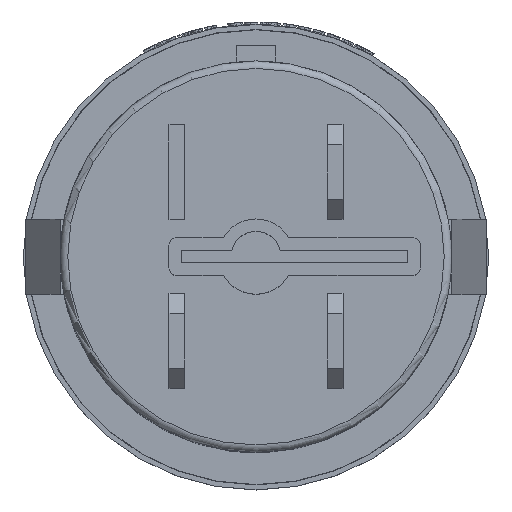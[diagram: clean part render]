
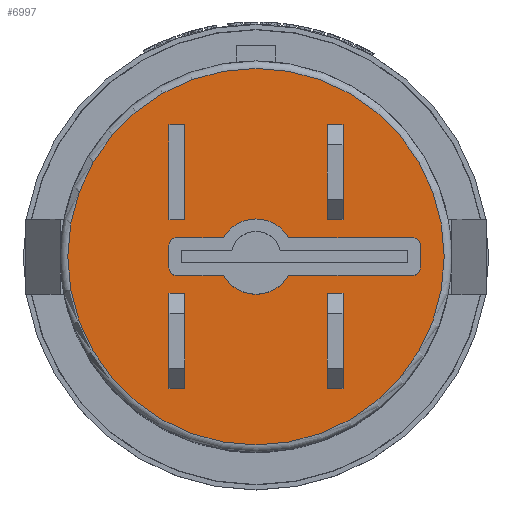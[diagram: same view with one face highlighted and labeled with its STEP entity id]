
A CAD part, top view. The second image highlights one B-rep face of the part: STEP entity #6997.
In plain terms, the highlighted planar face has unit normal (0, 0, 1).
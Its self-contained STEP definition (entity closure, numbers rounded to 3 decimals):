
#74=FACE_BOUND('',#1193,.T.);
#75=FACE_BOUND('',#1194,.T.);
#76=FACE_BOUND('',#1195,.T.);
#77=FACE_BOUND('',#1196,.T.);
#78=FACE_BOUND('',#1197,.T.);
#251=PLANE('',#7454);
#776=FACE_OUTER_BOUND('',#1192,.T.);
#1192=EDGE_LOOP('',(#6469));
#1193=EDGE_LOOP('',(#6470,#6471,#6472,#6473,#6474,#6475,#6476,#6477,#6478,
#6479,#6480,#6481));
#1194=EDGE_LOOP('',(#6482,#6483,#6484,#6485));
#1195=EDGE_LOOP('',(#6486,#6487,#6488,#6489));
#1196=EDGE_LOOP('',(#6490,#6491,#6492,#6493));
#1197=EDGE_LOOP('',(#6494,#6495,#6496,#6497));
#1378=CIRCLE('',#7408,0.381);
#1385=CIRCLE('',#7418,0.381);
#1386=CIRCLE('',#7421,0.381);
#1387=CIRCLE('',#7424,0.381);
#1395=CIRCLE('',#7446,1.905);
#1396=CIRCLE('',#7449,1.905);
#1397=CIRCLE('',#7452,9.519);
#1781=LINE('',#15997,#2348);
#1785=LINE('',#16003,#2352);
#1788=LINE('',#16009,#2355);
#1789=LINE('',#16011,#2356);
#1810=LINE('',#16072,#2377);
#1814=LINE('',#16080,#2381);
#1817=LINE('',#16086,#2384);
#1821=LINE('',#16093,#2388);
#1893=LINE('',#16292,#2460);
#1906=LINE('',#16332,#2473);
#1910=LINE('',#16342,#2477);
#1913=LINE('',#16351,#2480);
#1930=LINE('',#16402,#2497);
#1932=LINE('',#16408,#2499);
#1933=LINE('',#16416,#2500);
#1934=LINE('',#16418,#2501);
#1935=LINE('',#16420,#2502);
#1936=LINE('',#16421,#2503);
#1937=LINE('',#16424,#2504);
#1938=LINE('',#16426,#2505);
#1939=LINE('',#16428,#2506);
#1940=LINE('',#16429,#2507);
#2348=VECTOR('',#8424,10.);
#2352=VECTOR('',#8430,10.);
#2355=VECTOR('',#8437,10.);
#2356=VECTOR('',#8440,10.);
#2377=VECTOR('',#8493,10.);
#2381=VECTOR('',#8499,10.);
#2384=VECTOR('',#8504,10.);
#2388=VECTOR('',#8512,10.);
#2460=VECTOR('',#8708,10.);
#2473=VECTOR('',#8741,10.);
#2477=VECTOR('',#8751,10.);
#2480=VECTOR('',#8760,10.);
#2497=VECTOR('',#8821,10.);
#2499=VECTOR('',#8829,10.);
#2500=VECTOR('',#8838,10.);
#2501=VECTOR('',#8839,10.);
#2502=VECTOR('',#8840,10.);
#2503=VECTOR('',#8841,10.);
#2504=VECTOR('',#8842,10.);
#2505=VECTOR('',#8843,10.);
#2506=VECTOR('',#8844,10.);
#2507=VECTOR('',#8845,10.);
#3327=VERTEX_POINT('',#15994);
#3328=VERTEX_POINT('',#15996);
#3329=VERTEX_POINT('',#16001);
#3330=VERTEX_POINT('',#16007);
#3353=VERTEX_POINT('',#16070);
#3354=VERTEX_POINT('',#16071);
#3357=VERTEX_POINT('',#16079);
#3359=VERTEX_POINT('',#16085);
#3422=VERTEX_POINT('',#16282);
#3423=VERTEX_POINT('',#16284);
#3425=VERTEX_POINT('',#16290);
#3441=VERTEX_POINT('',#16326);
#3442=VERTEX_POINT('',#16330);
#3443=VERTEX_POINT('',#16334);
#3444=VERTEX_POINT('',#16336);
#3445=VERTEX_POINT('',#16340);
#3446=VERTEX_POINT('',#16344);
#3447=VERTEX_POINT('',#16346);
#3448=VERTEX_POINT('',#16350);
#3461=VERTEX_POINT('',#16404);
#3462=VERTEX_POINT('',#16410);
#3463=VERTEX_POINT('',#16414);
#3464=VERTEX_POINT('',#16415);
#3465=VERTEX_POINT('',#16417);
#3466=VERTEX_POINT('',#16419);
#3467=VERTEX_POINT('',#16422);
#3468=VERTEX_POINT('',#16423);
#3469=VERTEX_POINT('',#16425);
#3470=VERTEX_POINT('',#16427);
#4272=EDGE_CURVE('',#3328,#3327,#1781,.T.);
#4276=EDGE_CURVE('',#3327,#3329,#1785,.T.);
#4279=EDGE_CURVE('',#3329,#3330,#1788,.T.);
#4280=EDGE_CURVE('',#3330,#3328,#1789,.T.);
#4309=EDGE_CURVE('',#3353,#3354,#1810,.T.);
#4313=EDGE_CURVE('',#3357,#3353,#1814,.T.);
#4316=EDGE_CURVE('',#3354,#3359,#1817,.T.);
#4320=EDGE_CURVE('',#3359,#3357,#1821,.T.);
#4417=EDGE_CURVE('',#3422,#3423,#1378,.F.);
#4421=EDGE_CURVE('',#3422,#3425,#1893,.T.);
#4439=EDGE_CURVE('',#3441,#3425,#1385,.F.);
#4441=EDGE_CURVE('',#3441,#3442,#1906,.T.);
#4443=EDGE_CURVE('',#3443,#3444,#1386,.F.);
#4446=EDGE_CURVE('',#3443,#3445,#1910,.T.);
#4448=EDGE_CURVE('',#3446,#3447,#1387,.F.);
#4450=EDGE_CURVE('',#3448,#3447,#1913,.T.);
#4474=EDGE_CURVE('',#3442,#3448,#1395,.T.);
#4475=EDGE_CURVE('',#3446,#3444,#1930,.T.);
#4476=EDGE_CURVE('',#3445,#3461,#1396,.T.);
#4478=EDGE_CURVE('',#3461,#3423,#1932,.T.);
#4479=EDGE_CURVE('',#3462,#3462,#1397,.T.);
#4481=EDGE_CURVE('',#3463,#3464,#1933,.T.);
#4482=EDGE_CURVE('',#3464,#3465,#1934,.T.);
#4483=EDGE_CURVE('',#3465,#3466,#1935,.T.);
#4484=EDGE_CURVE('',#3466,#3463,#1936,.T.);
#4485=EDGE_CURVE('',#3467,#3468,#1937,.T.);
#4486=EDGE_CURVE('',#3468,#3469,#1938,.T.);
#4487=EDGE_CURVE('',#3469,#3470,#1939,.T.);
#4488=EDGE_CURVE('',#3470,#3467,#1940,.T.);
#6469=ORIENTED_EDGE('',*,*,#4479,.F.);
#6470=ORIENTED_EDGE('',*,*,#4441,.T.);
#6471=ORIENTED_EDGE('',*,*,#4474,.T.);
#6472=ORIENTED_EDGE('',*,*,#4450,.T.);
#6473=ORIENTED_EDGE('',*,*,#4448,.F.);
#6474=ORIENTED_EDGE('',*,*,#4475,.T.);
#6475=ORIENTED_EDGE('',*,*,#4443,.F.);
#6476=ORIENTED_EDGE('',*,*,#4446,.T.);
#6477=ORIENTED_EDGE('',*,*,#4476,.T.);
#6478=ORIENTED_EDGE('',*,*,#4478,.T.);
#6479=ORIENTED_EDGE('',*,*,#4417,.F.);
#6480=ORIENTED_EDGE('',*,*,#4421,.T.);
#6481=ORIENTED_EDGE('',*,*,#4439,.F.);
#6482=ORIENTED_EDGE('',*,*,#4481,.T.);
#6483=ORIENTED_EDGE('',*,*,#4482,.T.);
#6484=ORIENTED_EDGE('',*,*,#4483,.T.);
#6485=ORIENTED_EDGE('',*,*,#4484,.T.);
#6486=ORIENTED_EDGE('',*,*,#4485,.T.);
#6487=ORIENTED_EDGE('',*,*,#4486,.T.);
#6488=ORIENTED_EDGE('',*,*,#4487,.T.);
#6489=ORIENTED_EDGE('',*,*,#4488,.T.);
#6490=ORIENTED_EDGE('',*,*,#4313,.T.);
#6491=ORIENTED_EDGE('',*,*,#4309,.T.);
#6492=ORIENTED_EDGE('',*,*,#4316,.T.);
#6493=ORIENTED_EDGE('',*,*,#4320,.T.);
#6494=ORIENTED_EDGE('',*,*,#4280,.T.);
#6495=ORIENTED_EDGE('',*,*,#4272,.T.);
#6496=ORIENTED_EDGE('',*,*,#4276,.T.);
#6497=ORIENTED_EDGE('',*,*,#4279,.T.);
#6997=ADVANCED_FACE('',(#776,#74,#75,#76,#77,#78),#251,.T.);
#7408=AXIS2_PLACEMENT_3D('',#16285,#8701,#8702);
#7418=AXIS2_PLACEMENT_3D('',#16328,#8736,#8737);
#7421=AXIS2_PLACEMENT_3D('',#16337,#8745,#8746);
#7424=AXIS2_PLACEMENT_3D('',#16347,#8755,#8756);
#7446=AXIS2_PLACEMENT_3D('',#16400,#8817,#8818);
#7449=AXIS2_PLACEMENT_3D('',#16405,#8824,#8825);
#7452=AXIS2_PLACEMENT_3D('',#16411,#8832,#8833);
#7454=AXIS2_PLACEMENT_3D('',#16413,#8836,#8837);
#8424=DIRECTION('',(1.,0.,0.));
#8430=DIRECTION('',(0.,-1.,0.));
#8437=DIRECTION('',(-1.,0.,0.));
#8440=DIRECTION('',(0.,1.,0.));
#8493=DIRECTION('',(-1.,0.,0.));
#8499=DIRECTION('',(0.,-1.,0.));
#8504=DIRECTION('',(0.,1.,0.));
#8512=DIRECTION('',(1.,0.,0.));
#8701=DIRECTION('center_axis',(0.,0.,-1.));
#8702=DIRECTION('ref_axis',(-0.707,-0.707,0.));
#8708=DIRECTION('',(0.,1.,0.));
#8736=DIRECTION('center_axis',(0.,0.,-1.));
#8737=DIRECTION('ref_axis',(-0.707,0.707,0.));
#8741=DIRECTION('',(1.,0.,0.));
#8745=DIRECTION('center_axis',(0.,0.,-1.));
#8746=DIRECTION('ref_axis',(0.707,-0.707,0.));
#8751=DIRECTION('',(-1.,0.,0.));
#8755=DIRECTION('center_axis',(0.,0.,-1.));
#8756=DIRECTION('ref_axis',(0.707,0.707,0.));
#8760=DIRECTION('',(1.,0.,0.));
#8817=DIRECTION('center_axis',(0.,0.,-1.));
#8818=DIRECTION('ref_axis',(0.866,0.5,0.));
#8821=DIRECTION('',(0.,-1.,0.));
#8824=DIRECTION('center_axis',(0.,0.,-1.));
#8825=DIRECTION('ref_axis',(-0.866,-0.5,0.));
#8829=DIRECTION('',(-1.,0.,0.));
#8832=DIRECTION('center_axis',(0.,0.,-1.));
#8833=DIRECTION('ref_axis',(-1.,0.,0.));
#8836=DIRECTION('center_axis',(0.,0.,1.));
#8837=DIRECTION('ref_axis',(1.,0.,0.));
#8838=DIRECTION('',(0.,1.,0.));
#8839=DIRECTION('',(1.,0.,0.));
#8840=DIRECTION('',(0.,-1.,0.));
#8841=DIRECTION('',(-1.,0.,0.));
#8842=DIRECTION('',(0.,-1.,0.));
#8843=DIRECTION('',(-1.,0.,0.));
#8844=DIRECTION('',(0.,1.,0.));
#8845=DIRECTION('',(1.,0.,0.));
#15994=CARTESIAN_POINT('',(-3.6,-1.868,15.));
#15996=CARTESIAN_POINT('',(-4.4,-1.868,15.));
#15997=CARTESIAN_POINT('',(-1.8,-1.868,15.));
#16001=CARTESIAN_POINT('',(-3.6,-6.668,15.));
#16003=CARTESIAN_POINT('',(-3.6,-3.334,15.));
#16007=CARTESIAN_POINT('',(-4.4,-6.668,15.));
#16009=CARTESIAN_POINT('',(-2.2,-6.668,15.));
#16011=CARTESIAN_POINT('',(-4.4,-0.934,15.));
#16070=CARTESIAN_POINT('',(-3.6,1.868,15.));
#16071=CARTESIAN_POINT('',(-4.4,1.868,15.));
#16072=CARTESIAN_POINT('',(-2.2,1.868,15.));
#16079=CARTESIAN_POINT('',(-3.6,6.668,15.));
#16080=CARTESIAN_POINT('',(-3.6,0.934,15.));
#16085=CARTESIAN_POINT('',(-4.4,6.668,15.));
#16086=CARTESIAN_POINT('',(-4.4,3.334,15.));
#16093=CARTESIAN_POINT('',(-1.8,6.668,15.));
#16282=CARTESIAN_POINT('',(-4.4,-0.572,15.));
#16284=CARTESIAN_POINT('',(-4.019,-0.953,15.));
#16285=CARTESIAN_POINT('Origin',(-4.019,-0.572,15.));
#16290=CARTESIAN_POINT('',(-4.4,0.572,15.));
#16292=CARTESIAN_POINT('',(-4.4,0.476,15.));
#16326=CARTESIAN_POINT('',(-4.019,0.953,15.));
#16328=CARTESIAN_POINT('Origin',(-4.019,0.572,15.));
#16330=CARTESIAN_POINT('',(-1.65,0.953,15.));
#16332=CARTESIAN_POINT('',(-0.825,0.953,15.));
#16334=CARTESIAN_POINT('',(7.919,-0.953,15.));
#16336=CARTESIAN_POINT('',(8.3,-0.572,15.));
#16337=CARTESIAN_POINT('Origin',(7.919,-0.572,15.));
#16340=CARTESIAN_POINT('',(1.65,-0.953,15.));
#16342=CARTESIAN_POINT('',(0.825,-0.953,15.));
#16344=CARTESIAN_POINT('',(8.3,0.572,15.));
#16346=CARTESIAN_POINT('',(7.919,0.953,15.));
#16347=CARTESIAN_POINT('Origin',(7.919,0.572,15.));
#16350=CARTESIAN_POINT('',(1.65,0.953,15.));
#16351=CARTESIAN_POINT('',(4.15,0.953,15.));
#16400=CARTESIAN_POINT('Origin',(0.,0.,15.));
#16402=CARTESIAN_POINT('',(8.3,-0.476,15.));
#16404=CARTESIAN_POINT('',(-1.65,-0.953,15.));
#16405=CARTESIAN_POINT('Origin',(0.,0.,15.));
#16408=CARTESIAN_POINT('',(-2.2,-0.953,15.));
#16410=CARTESIAN_POINT('',(-9.519,0.,15.));
#16411=CARTESIAN_POINT('Origin',(0.,0.,15.));
#16413=CARTESIAN_POINT('Origin',(0.,0.,
15.));
#16414=CARTESIAN_POINT('',(3.6,-6.668,15.));
#16415=CARTESIAN_POINT('',(3.6,-1.868,15.));
#16416=CARTESIAN_POINT('',(3.6,-0.934,15.));
#16417=CARTESIAN_POINT('',(4.4,-1.868,15.));
#16418=CARTESIAN_POINT('',(2.2,-1.868,15.));
#16419=CARTESIAN_POINT('',(4.4,-6.668,15.));
#16420=CARTESIAN_POINT('',(4.4,-3.334,15.));
#16421=CARTESIAN_POINT('',(1.8,-6.668,15.));
#16422=CARTESIAN_POINT('',(4.4,6.668,15.));
#16423=CARTESIAN_POINT('',(4.4,1.868,15.));
#16424=CARTESIAN_POINT('',(4.4,0.934,15.));
#16425=CARTESIAN_POINT('',(3.6,1.868,15.));
#16426=CARTESIAN_POINT('',(1.8,1.868,15.));
#16427=CARTESIAN_POINT('',(3.6,6.668,15.));
#16428=CARTESIAN_POINT('',(3.6,3.334,15.));
#16429=CARTESIAN_POINT('',(2.2,6.668,15.));
